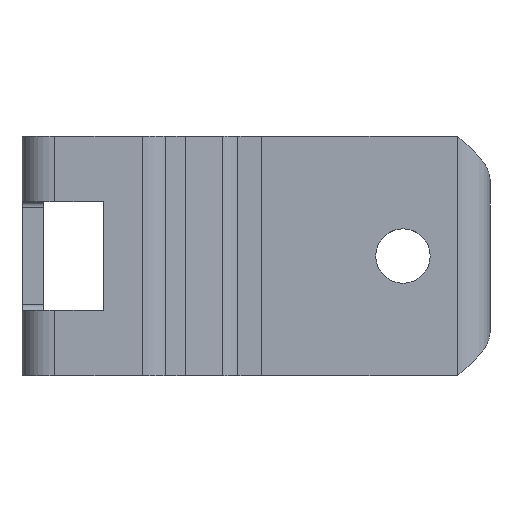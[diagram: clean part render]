
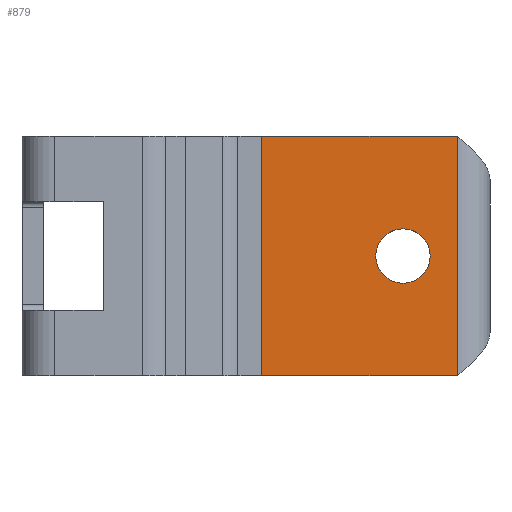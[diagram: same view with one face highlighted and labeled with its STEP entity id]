
A CAD part, top view. The second image highlights one B-rep face of the part: STEP entity #879.
In plain terms, the highlighted planar face has unit normal (0, 0, 1).
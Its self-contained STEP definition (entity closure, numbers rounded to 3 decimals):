
#516=VECTOR('Line Direction',#515,1.) ;
#686=VECTOR('Line Direction',#685,1.) ;
#857=VECTOR('Line Direction',#856,1.) ;
#864=VECTOR('Line Direction',#863,1.) ;
#515=DIRECTION('Vector Direction',(0.,1.,0.)) ;
#685=DIRECTION('Vector Direction',(1.,0.,0.)) ;
#767=DIRECTION('Axis2P3D Direction',(0.,0.,1.)) ;
#791=DIRECTION('Axis2P3D Direction',(0.,0.,1.)) ;
#815=DIRECTION('Axis2P3D Direction',(0.,0.,1.)) ;
#839=DIRECTION('Axis2P3D Direction',(0.,0.,1.)) ;
#851=DIRECTION('Axis2P3D Direction',(0.,0.,1.)) ;
#852=DIRECTION('Axis2P3D XDirection',(1.,0.,0.)) ;
#856=DIRECTION('Vector Direction',(0.,1.,0.)) ;
#863=DIRECTION('Vector Direction',(1.,0.,0.)) ;
#514=CARTESIAN_POINT('Line Origine',(984.,-720.,107.5)) ;
#518=CARTESIAN_POINT('Vertex',(984.,-731.,107.5)) ;
#520=CARTESIAN_POINT('Vertex',(984.,-709.,107.5)) ;
#681=CARTESIAN_POINT('Vertex',(966.,-709.,107.5)) ;
#684=CARTESIAN_POINT('Line Origine',(975.,-709.,107.5)) ;
#763=CARTESIAN_POINT('Vertex',(979.,-722.5,107.5)) ;
#766=CARTESIAN_POINT('Axis2P3D Location',(979.,-720.,107.5)) ;
#770=CARTESIAN_POINT('Vertex',(981.5,-720.,107.5)) ;
#790=CARTESIAN_POINT('Axis2P3D Location',(979.,-720.,107.5)) ;
#794=CARTESIAN_POINT('Vertex',(979.,-717.5,107.5)) ;
#814=CARTESIAN_POINT('Axis2P3D Location',(979.,-720.,107.5)) ;
#818=CARTESIAN_POINT('Vertex',(976.5,-720.,107.5)) ;
#838=CARTESIAN_POINT('Axis2P3D Location',(979.,-720.,107.5)) ;
#850=CARTESIAN_POINT('Axis2P3D Location',(0.,0.,107.5)) ;
#855=CARTESIAN_POINT('Line Origine',(966.,-720.,107.5)) ;
#859=CARTESIAN_POINT('Vertex',(966.,-731.,107.5)) ;
#862=CARTESIAN_POINT('Line Origine',(975.,-731.,107.5)) ;
#768=AXIS2_PLACEMENT_3D('Circle Axis2P3D',#766,#767,$) ;
#792=AXIS2_PLACEMENT_3D('Circle Axis2P3D',#790,#791,$) ;
#816=AXIS2_PLACEMENT_3D('Circle Axis2P3D',#814,#815,$) ;
#840=AXIS2_PLACEMENT_3D('Circle Axis2P3D',#838,#839,$) ;
#853=AXIS2_PLACEMENT_3D('Plane Axis2P3D',#850,#851,#852) ;
#878=FACE_BOUND('',#873,.T.) ;
#522=EDGE_CURVE('',#519,#521,#517,.T.) ;
#688=EDGE_CURVE('',#682,#521,#687,.T.) ;
#772=EDGE_CURVE('',#771,#764,#769,.F.) ;
#796=EDGE_CURVE('',#771,#795,#793,.T.) ;
#820=EDGE_CURVE('',#795,#819,#817,.T.) ;
#842=EDGE_CURVE('',#819,#764,#841,.T.) ;
#861=EDGE_CURVE('',#682,#860,#858,.F.) ;
#866=EDGE_CURVE('',#519,#860,#865,.F.) ;
#854=PLANE('Plane',#853) ;
#868=ORIENTED_EDGE('',*,*,#688,.F.) ;
#869=ORIENTED_EDGE('',*,*,#861,.T.) ;
#870=ORIENTED_EDGE('',*,*,#866,.F.) ;
#871=ORIENTED_EDGE('',*,*,#522,.T.) ;
#874=ORIENTED_EDGE('',*,*,#842,.F.) ;
#875=ORIENTED_EDGE('',*,*,#820,.F.) ;
#876=ORIENTED_EDGE('',*,*,#796,.F.) ;
#877=ORIENTED_EDGE('',*,*,#772,.T.) ;
#517=LINE('Line',#514,#516) ;
#687=LINE('Line',#684,#686) ;
#858=LINE('Line',#855,#857) ;
#865=LINE('Line',#862,#864) ;
#879=ADVANCED_FACE('\X2\96F64EF651E04F554F53\X0\',(#872,#878),#854,.T.) ;
#769=CIRCLE('generated circle',#768,2.5) ;
#793=CIRCLE('generated circle',#792,2.5) ;
#817=CIRCLE('generated circle',#816,2.5) ;
#841=CIRCLE('generated circle',#840,2.5) ;
#519=VERTEX_POINT('',#518) ;
#521=VERTEX_POINT('',#520) ;
#682=VERTEX_POINT('',#681) ;
#764=VERTEX_POINT('',#763) ;
#771=VERTEX_POINT('',#770) ;
#795=VERTEX_POINT('',#794) ;
#819=VERTEX_POINT('',#818) ;
#860=VERTEX_POINT('',#859) ;
#867=EDGE_LOOP('',(#868,#869,#870,#871)) ;
#873=EDGE_LOOP('',(#874,#875,#876,#877)) ;
#872=FACE_OUTER_BOUND('',#867,.T.) ;
